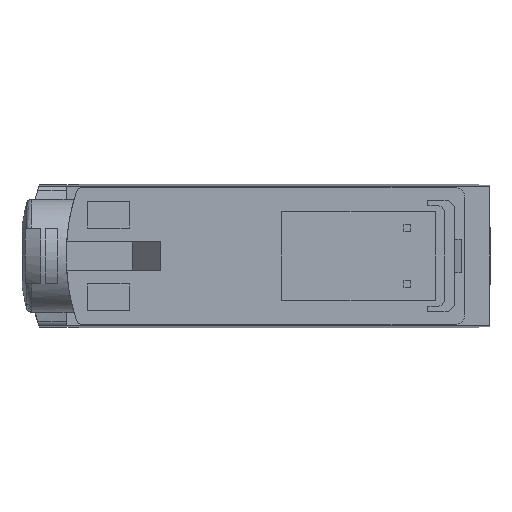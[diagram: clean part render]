
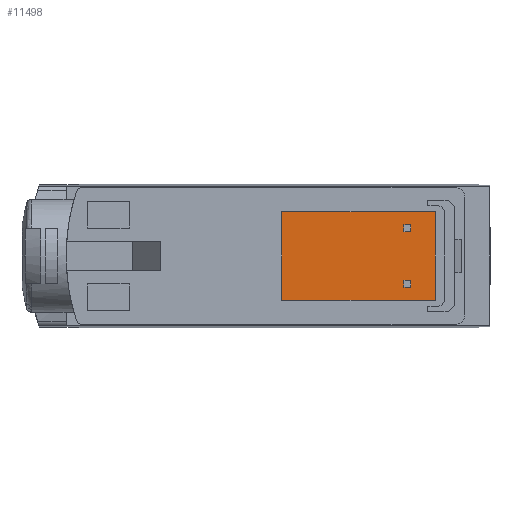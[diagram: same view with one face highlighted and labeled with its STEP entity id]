
A CAD part, left-side view. The second image highlights one B-rep face of the part: STEP entity #11498.
In plain terms, the highlighted planar face has unit normal (-1, 0, 0).
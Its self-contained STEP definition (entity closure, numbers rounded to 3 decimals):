
#359 = EDGE_CURVE ( 'NONE', #2067, #12411, #11497, .T. ) ;
#483 = EDGE_LOOP ( 'NONE', ( #1394, #5188, #861, #3007 ) ) ;
#611 = DIRECTION ( 'NONE',  ( 0., 0., -1. ) ) ;
#623 = VERTEX_POINT ( 'NONE', #6051 ) ;
#861 = ORIENTED_EDGE ( 'NONE', *, *, #10351, .T. ) ;
#958 = FACE_BOUND ( 'NONE', #1466, .T. ) ;
#1008 = EDGE_CURVE ( 'NONE', #9343, #2067, #9143, .T. ) ;
#1208 = CARTESIAN_POINT ( 'NONE',  ( -41.7, 3.1, 3.15 ) ) ;
#1213 = CARTESIAN_POINT ( 'NONE',  ( -41.7, 0., 0. ) ) ;
#1394 = ORIENTED_EDGE ( 'NONE', *, *, #359, .T. ) ;
#1417 = DIRECTION ( 'NONE',  ( 0., 0., 1. ) ) ;
#1466 = EDGE_LOOP ( 'NONE', ( #7938, #1936, #12757, #2934 ) ) ;
#1936 = ORIENTED_EDGE ( 'NONE', *, *, #11467, .T. ) ;
#1990 = DIRECTION ( 'NONE',  ( 0., 0., 1. ) ) ;
#2067 = VERTEX_POINT ( 'NONE', #8245 ) ;
#2510 = CARTESIAN_POINT ( 'NONE',  ( -41.7, 4.85, 2.25 ) ) ;
#2656 = LINE ( 'NONE', #7581, #12855 ) ;
#2732 = VECTOR ( 'NONE', #5043, 1000. ) ;
#2934 = ORIENTED_EDGE ( 'NONE', *, *, #11717, .T. ) ;
#3007 = ORIENTED_EDGE ( 'NONE', *, *, #1008, .T. ) ;
#3072 = VERTEX_POINT ( 'NONE', #1208 ) ;
#3236 = CARTESIAN_POINT ( 'NONE',  ( -41.7, 5.35, -2.25 ) ) ;
#3441 = CARTESIAN_POINT ( 'NONE',  ( -41.7, 4.85, 1.75 ) ) ;
#3534 = VERTEX_POINT ( 'NONE', #2510 ) ;
#3672 = VECTOR ( 'NONE', #3944, 1000. ) ;
#3824 = VERTEX_POINT ( 'NONE', #10404 ) ;
#3871 = ORIENTED_EDGE ( 'NONE', *, *, #4623, .F. ) ;
#3944 = DIRECTION ( 'NONE',  ( 0., 0., -1. ) ) ;
#4058 = VERTEX_POINT ( 'NONE', #3441 ) ;
#4303 = DIRECTION ( 'NONE',  ( 0., -1., 0. ) ) ;
#4362 = DIRECTION ( 'NONE',  ( 0., 1., 0. ) ) ;
#4528 = CARTESIAN_POINT ( 'NONE',  ( -41.7, 14.1, -3.15 ) ) ;
#4623 = EDGE_CURVE ( 'NONE', #10827, #12474, #6865, .T. ) ;
#4730 = LINE ( 'NONE', #6618, #8776 ) ;
#5043 = DIRECTION ( 'NONE',  ( 0., 1., 0. ) ) ;
#5132 = DIRECTION ( 'NONE',  ( 0., 0., -1. ) ) ;
#5188 = ORIENTED_EDGE ( 'NONE', *, *, #5598, .T. ) ;
#5193 = CARTESIAN_POINT ( 'NONE',  ( -41.7, 14.1, 3.15 ) ) ;
#5598 = EDGE_CURVE ( 'NONE', #12411, #623, #6744, .T. ) ;
#5919 = DIRECTION ( 'NONE',  ( 1., 0., 0. ) ) ;
#5950 = CARTESIAN_POINT ( 'NONE',  ( -41.7, 3.1, -3.15 ) ) ;
#6051 = CARTESIAN_POINT ( 'NONE',  ( -41.7, 5.35, -1.75 ) ) ;
#6222 = DIRECTION ( 'NONE',  ( 0., 0., -1. ) ) ;
#6282 = CARTESIAN_POINT ( 'NONE',  ( -41.7, 5.35, 2.25 ) ) ;
#6328 = CARTESIAN_POINT ( 'NONE',  ( -41.7, 5.35, 2.25 ) ) ;
#6389 = LINE ( 'NONE', #6328, #8204 ) ;
#6443 = CARTESIAN_POINT ( 'NONE',  ( -41.7, 5.35, -1.75 ) ) ;
#6618 = CARTESIAN_POINT ( 'NONE',  ( -41.7, 4.85, 2.25 ) ) ;
#6632 = CARTESIAN_POINT ( 'NONE',  ( -41.7, 14.1, -3.15 ) ) ;
#6744 = LINE ( 'NONE', #7839, #7904 ) ;
#6838 = EDGE_CURVE ( 'NONE', #4058, #3824, #2656, .T. ) ;
#6865 = LINE ( 'NONE', #5950, #2732 ) ;
#7101 = ORIENTED_EDGE ( 'NONE', *, *, #12613, .F. ) ;
#7203 = LINE ( 'NONE', #5193, #8311 ) ;
#7581 = CARTESIAN_POINT ( 'NONE',  ( -41.7, 4.85, 1.75 ) ) ;
#7583 = LINE ( 'NONE', #6632, #10769 ) ;
#7587 = DIRECTION ( 'NONE',  ( 0., 0., 1. ) ) ;
#7758 = VERTEX_POINT ( 'NONE', #10205 ) ;
#7835 = EDGE_CURVE ( 'NONE', #12474, #7758, #7583, .T. ) ;
#7838 = CARTESIAN_POINT ( 'NONE',  ( -41.7, 3.1, 3.15 ) ) ;
#7839 = CARTESIAN_POINT ( 'NONE',  ( -41.7, 5.35, -2.25 ) ) ;
#7904 = VECTOR ( 'NONE', #1990, 1000. ) ;
#7938 = ORIENTED_EDGE ( 'NONE', *, *, #6838, .T. ) ;
#8080 = EDGE_CURVE ( 'NONE', #7758, #3072, #7203, .T. ) ;
#8204 = VECTOR ( 'NONE', #8283, 1000. ) ;
#8245 = CARTESIAN_POINT ( 'NONE',  ( -41.7, 4.85, -2.25 ) ) ;
#8283 = DIRECTION ( 'NONE',  ( 0., -1., 0. ) ) ;
#8311 = VECTOR ( 'NONE', #12078, 1000. ) ;
#8516 = DIRECTION ( 'NONE',  ( 0., 1., 0. ) ) ;
#8681 = CARTESIAN_POINT ( 'NONE',  ( -41.7, 4.85, -1.75 ) ) ;
#8776 = VECTOR ( 'NONE', #611, 1000. ) ;
#9007 = LINE ( 'NONE', #7838, #3672 ) ;
#9143 = LINE ( 'NONE', #11018, #10782 ) ;
#9329 = VECTOR ( 'NONE', #8516, 1000. ) ;
#9343 = VERTEX_POINT ( 'NONE', #8681 ) ;
#9372 = AXIS2_PLACEMENT_3D ( 'NONE', #1213, #5919, #5132 ) ;
#9378 = EDGE_LOOP ( 'NONE', ( #11747, #3871, #7101, #12201 ) ) ;
#9500 = VERTEX_POINT ( 'NONE', #6282 ) ;
#9548 = CARTESIAN_POINT ( 'NONE',  ( -41.7, 4.85, -2.25 ) ) ;
#9700 = CARTESIAN_POINT ( 'NONE',  ( -41.7, 3.1, -3.15 ) ) ;
#9817 = VECTOR ( 'NONE', #7587, 1000. ) ;
#10000 = FACE_OUTER_BOUND ( 'NONE', #9378, .T. ) ;
#10022 = EDGE_CURVE ( 'NONE', #9500, #3534, #6389, .T. ) ;
#10205 = CARTESIAN_POINT ( 'NONE',  ( -41.7, 14.1, 3.15 ) ) ;
#10351 = EDGE_CURVE ( 'NONE', #623, #9343, #11300, .T. ) ;
#10404 = CARTESIAN_POINT ( 'NONE',  ( -41.7, 5.35, 1.75 ) ) ;
#10769 = VECTOR ( 'NONE', #1417, 1000. ) ;
#10782 = VECTOR ( 'NONE', #6222, 1000. ) ;
#10827 = VERTEX_POINT ( 'NONE', #9700 ) ;
#10842 = CARTESIAN_POINT ( 'NONE',  ( -41.7, 5.35, 1.75 ) ) ;
#11018 = CARTESIAN_POINT ( 'NONE',  ( -41.7, 4.85, -1.75 ) ) ;
#11027 = VECTOR ( 'NONE', #4303, 1000. ) ;
#11031 = FACE_BOUND ( 'NONE', #483, .T. ) ;
#11092 = PLANE ( 'NONE',  #9372 ) ;
#11300 = LINE ( 'NONE', #6443, #11027 ) ;
#11467 = EDGE_CURVE ( 'NONE', #3824, #9500, #11694, .T. ) ;
#11497 = LINE ( 'NONE', #9548, #9329 ) ;
#11498 = ADVANCED_FACE ( 'NONE', ( #11031, #958, #10000 ), #11092, .F. ) ;
#11694 = LINE ( 'NONE', #10842, #9817 ) ;
#11717 = EDGE_CURVE ( 'NONE', #3534, #4058, #4730, .T. ) ;
#11747 = ORIENTED_EDGE ( 'NONE', *, *, #7835, .F. ) ;
#12078 = DIRECTION ( 'NONE',  ( 0., -1., 0. ) ) ;
#12201 = ORIENTED_EDGE ( 'NONE', *, *, #8080, .F. ) ;
#12411 = VERTEX_POINT ( 'NONE', #3236 ) ;
#12474 = VERTEX_POINT ( 'NONE', #4528 ) ;
#12613 = EDGE_CURVE ( 'NONE', #3072, #10827, #9007, .T. ) ;
#12757 = ORIENTED_EDGE ( 'NONE', *, *, #10022, .T. ) ;
#12855 = VECTOR ( 'NONE', #4362, 1000. ) ;
